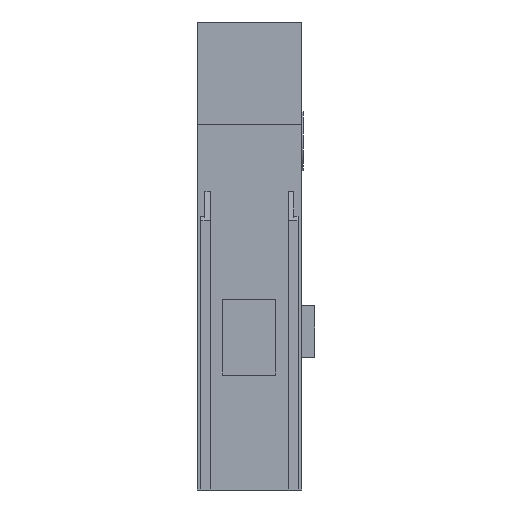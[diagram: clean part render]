
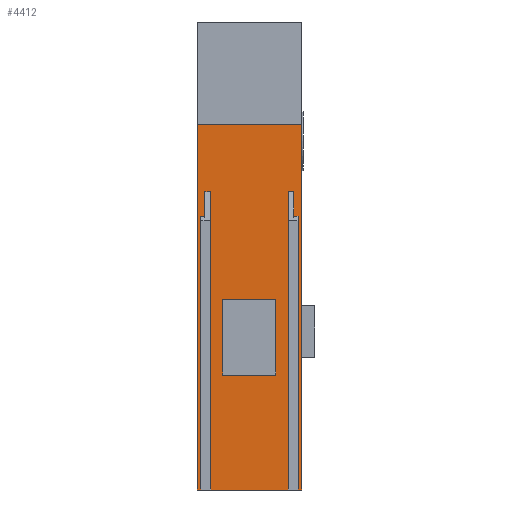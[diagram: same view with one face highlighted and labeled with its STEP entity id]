
A CAD part, front view. The second image highlights one B-rep face of the part: STEP entity #4412.
In plain terms, the highlighted planar face has unit normal (0, -1, 0).
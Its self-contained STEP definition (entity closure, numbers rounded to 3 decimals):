
#13 = VERTEX_POINT ( 'NONE', #3187 ) ;
#29 = LINE ( 'NONE', #4592, #1572 ) ;
#69 = VERTEX_POINT ( 'NONE', #3172 ) ;
#74 = CARTESIAN_POINT ( 'NONE',  ( -5.3, -32.65, 25.9 ) ) ;
#128 = CARTESIAN_POINT ( 'NONE',  ( -6.95, -32.65, 0. ) ) ;
#231 = VECTOR ( 'NONE', #3770, 1000. ) ;
#313 = VECTOR ( 'NONE', #4604, 1000. ) ;
#341 = VERTEX_POINT ( 'NONE', #74 ) ;
#349 = CARTESIAN_POINT ( 'NONE',  ( 5.4, -32.65, 0. ) ) ;
#364 = CARTESIAN_POINT ( 'NONE',  ( -5.3, -32.65, 15.6 ) ) ;
#375 = ORIENTED_EDGE ( 'NONE', *, *, #4260, .F. ) ;
#399 = DIRECTION ( 'NONE',  ( 0., 0., 1. ) ) ;
#401 = AXIS2_PLACEMENT_3D ( 'NONE', #3604, #1016, #3184 ) ;
#414 = CARTESIAN_POINT ( 'NONE',  ( -6.95, -32.65, 0. ) ) ;
#415 = DIRECTION ( 'NONE',  ( 0., 0., -1. ) ) ;
#439 = LINE ( 'NONE', #1866, #3805 ) ;
#464 = EDGE_CURVE ( 'NONE', #5383, #5363, #1769, .T. ) ;
#536 = VECTOR ( 'NONE', #2100, 1000. ) ;
#552 = LINE ( 'NONE', #1994, #2825 ) ;
#629 = EDGE_CURVE ( 'NONE', #754, #5015, #29, .T. ) ;
#644 = CARTESIAN_POINT ( 'NONE',  ( 5.4, -32.65, 49.6 ) ) ;
#664 = EDGE_CURVE ( 'NONE', #2599, #2492, #5036, .T. ) ;
#683 = PLANE ( 'NONE',  #401 ) ;
#698 = LINE ( 'NONE', #4092, #3402 ) ;
#754 = VERTEX_POINT ( 'NONE', #3648 ) ;
#819 = ORIENTED_EDGE ( 'NONE', *, *, #3344, .T. ) ;
#834 = DIRECTION ( 'NONE',  ( 0., 0., -1. ) ) ;
#890 = ORIENTED_EDGE ( 'NONE', *, *, #4572, .T. ) ;
#995 = EDGE_CURVE ( 'NONE', #5363, #1970, #698, .T. ) ;
#1016 = DIRECTION ( 'NONE',  ( 0., -1., 0. ) ) ;
#1109 = CARTESIAN_POINT ( 'NONE',  ( 3.55, -32.65, 40.5 ) ) ;
#1118 = VECTOR ( 'NONE', #1747, 1000. ) ;
#1244 = ORIENTED_EDGE ( 'NONE', *, *, #4905, .T. ) ;
#1260 = ORIENTED_EDGE ( 'NONE', *, *, #1920, .F. ) ;
#1553 = DIRECTION ( 'NONE',  ( 1., 0., 0. ) ) ;
#1572 = VECTOR ( 'NONE', #834, 1000. ) ;
#1628 = ORIENTED_EDGE ( 'NONE', *, *, #3366, .F. ) ;
#1693 = CARTESIAN_POINT ( 'NONE',  ( -7.75, -32.65, 0. ) ) ;
#1723 = LINE ( 'NONE', #4550, #4648 ) ;
#1747 = DIRECTION ( 'NONE',  ( 1., 0., 0. ) ) ;
#1764 = ORIENTED_EDGE ( 'NONE', *, *, #464, .T. ) ;
#1769 = LINE ( 'NONE', #2843, #4050 ) ;
#1820 = VECTOR ( 'NONE', #4513, 1000. ) ;
#1866 = CARTESIAN_POINT ( 'NONE',  ( -8.8, -32.65, 0. ) ) ;
#1920 = EDGE_CURVE ( 'NONE', #2904, #2945, #2679, .T. ) ;
#1970 = VERTEX_POINT ( 'NONE', #364 ) ;
#1992 = EDGE_CURVE ( 'NONE', #13, #2095, #2622, .T. ) ;
#1994 = CARTESIAN_POINT ( 'NONE',  ( -8.8, -32.65, 40.5 ) ) ;
#2019 = ORIENTED_EDGE ( 'NONE', *, *, #664, .T. ) ;
#2025 = CARTESIAN_POINT ( 'NONE',  ( -5.3, -32.65, 15.6 ) ) ;
#2088 = CARTESIAN_POINT ( 'NONE',  ( 3.55, -32.65, 0. ) ) ;
#2095 = VERTEX_POINT ( 'NONE', #2555 ) ;
#2100 = DIRECTION ( 'NONE',  ( 1., 0., 0. ) ) ;
#2248 = CARTESIAN_POINT ( 'NONE',  ( -8.8, -32.65, 49.6 ) ) ;
#2491 = EDGE_LOOP ( 'NONE', ( #3021, #1764, #3125, #5140 ) ) ;
#2492 = VERTEX_POINT ( 'NONE', #1109 ) ;
#2555 = CARTESIAN_POINT ( 'NONE',  ( -6.95, -32.65, 40.5 ) ) ;
#2575 = FACE_OUTER_BOUND ( 'NONE', #5431, .T. ) ;
#2599 = VERTEX_POINT ( 'NONE', #3631 ) ;
#2615 = ORIENTED_EDGE ( 'NONE', *, *, #4069, .T. ) ;
#2622 = LINE ( 'NONE', #414, #231 ) ;
#2624 = EDGE_CURVE ( 'NONE', #1970, #341, #4224, .T. ) ;
#2679 = LINE ( 'NONE', #4890, #1820 ) ;
#2825 = VECTOR ( 'NONE', #1553, 1000. ) ;
#2837 = VERTEX_POINT ( 'NONE', #5466 ) ;
#2843 = CARTESIAN_POINT ( 'NONE',  ( 1.9, -32.65, 25.9 ) ) ;
#2851 = EDGE_CURVE ( 'NONE', #341, #5383, #4736, .T. ) ;
#2857 = DIRECTION ( 'NONE',  ( 0., 0., -1. ) ) ;
#2904 = VERTEX_POINT ( 'NONE', #4212 ) ;
#2945 = VERTEX_POINT ( 'NONE', #3821 ) ;
#2954 = VECTOR ( 'NONE', #3512, 1000. ) ;
#3010 = ORIENTED_EDGE ( 'NONE', *, *, #5458, .T. ) ;
#3021 = ORIENTED_EDGE ( 'NONE', *, *, #2851, .T. ) ;
#3028 = LINE ( 'NONE', #4204, #3300 ) ;
#3083 = FACE_BOUND ( 'NONE', #2491, .T. ) ;
#3125 = ORIENTED_EDGE ( 'NONE', *, *, #995, .T. ) ;
#3172 = CARTESIAN_POINT ( 'NONE',  ( -7.75, -32.65, 40.5 ) ) ;
#3184 = DIRECTION ( 'NONE',  ( 0., 0., -1. ) ) ;
#3187 = CARTESIAN_POINT ( 'NONE',  ( -6.95, -32.65, 0. ) ) ;
#3262 = DIRECTION ( 'NONE',  ( -1., 0., 0. ) ) ;
#3300 = VECTOR ( 'NONE', #415, 1000. ) ;
#3344 = EDGE_CURVE ( 'NONE', #2492, #2945, #1723, .T. ) ;
#3356 = LINE ( 'NONE', #349, #1118 ) ;
#3366 = EDGE_CURVE ( 'NONE', #4967, #2837, #3028, .T. ) ;
#3402 = VECTOR ( 'NONE', #3262, 1000. ) ;
#3414 = VECTOR ( 'NONE', #4744, 1000. ) ;
#3512 = DIRECTION ( 'NONE',  ( 1., 0., 0. ) ) ;
#3569 = CARTESIAN_POINT ( 'NONE',  ( -7.75, -32.65, 0. ) ) ;
#3604 = CARTESIAN_POINT ( 'NONE',  ( -8.8, -32.65, 40.5 ) ) ;
#3631 = CARTESIAN_POINT ( 'NONE',  ( 3.55, -32.65, 0. ) ) ;
#3643 = DIRECTION ( 'NONE',  ( 0., 0., 1. ) ) ;
#3648 = CARTESIAN_POINT ( 'NONE',  ( -8.8, -32.65, 49.6 ) ) ;
#3727 = ORIENTED_EDGE ( 'NONE', *, *, #629, .T. ) ;
#3766 = CARTESIAN_POINT ( 'NONE',  ( -5.3, -32.65, 25.9 ) ) ;
#3770 = DIRECTION ( 'NONE',  ( 0., 0., 1. ) ) ;
#3805 = VECTOR ( 'NONE', #4784, 1000. ) ;
#3810 = VERTEX_POINT ( 'NONE', #3569 ) ;
#3821 = CARTESIAN_POINT ( 'NONE',  ( 4.35, -32.65, 40.5 ) ) ;
#3868 = LINE ( 'NONE', #128, #2954 ) ;
#3915 = ORIENTED_EDGE ( 'NONE', *, *, #1992, .F. ) ;
#3927 = LINE ( 'NONE', #1693, #313 ) ;
#3987 = CARTESIAN_POINT ( 'NONE',  ( 1.9, -32.65, 15.6 ) ) ;
#4015 = CARTESIAN_POINT ( 'NONE',  ( -8.8, -32.65, 0. ) ) ;
#4050 = VECTOR ( 'NONE', #2857, 1000. ) ;
#4069 = EDGE_CURVE ( 'NONE', #2904, #2837, #3356, .T. ) ;
#4090 = CARTESIAN_POINT ( 'NONE',  ( 1.9, -32.65, 25.9 ) ) ;
#4092 = CARTESIAN_POINT ( 'NONE',  ( 1.9, -32.65, 15.6 ) ) ;
#4204 = CARTESIAN_POINT ( 'NONE',  ( 5.4, -32.65, 40.5 ) ) ;
#4212 = CARTESIAN_POINT ( 'NONE',  ( 4.35, -32.65, 0. ) ) ;
#4224 = LINE ( 'NONE', #2025, #4422 ) ;
#4260 = EDGE_CURVE ( 'NONE', #754, #4967, #4765, .T. ) ;
#4350 = EDGE_CURVE ( 'NONE', #5015, #3810, #439, .T. ) ;
#4412 = ADVANCED_FACE ( 'NONE', ( #2575, #3083 ), #683, .T. ) ;
#4422 = VECTOR ( 'NONE', #3643, 1000. ) ;
#4513 = DIRECTION ( 'NONE',  ( 0., 0., 1. ) ) ;
#4550 = CARTESIAN_POINT ( 'NONE',  ( -8.8, -32.65, 40.5 ) ) ;
#4572 = EDGE_CURVE ( 'NONE', #3810, #69, #3927, .T. ) ;
#4592 = CARTESIAN_POINT ( 'NONE',  ( -8.8, -32.65, 40.5 ) ) ;
#4604 = DIRECTION ( 'NONE',  ( 0., 0., 1. ) ) ;
#4613 = DIRECTION ( 'NONE',  ( 1., 0., 0. ) ) ;
#4648 = VECTOR ( 'NONE', #4613, 1000. ) ;
#4736 = LINE ( 'NONE', #3766, #536 ) ;
#4744 = DIRECTION ( 'NONE',  ( 1., 0., 0. ) ) ;
#4765 = LINE ( 'NONE', #2248, #3414 ) ;
#4784 = DIRECTION ( 'NONE',  ( 1., 0., 0. ) ) ;
#4890 = CARTESIAN_POINT ( 'NONE',  ( 4.35, -32.65, 0. ) ) ;
#4905 = EDGE_CURVE ( 'NONE', #13, #2599, #3868, .T. ) ;
#4967 = VERTEX_POINT ( 'NONE', #644 ) ;
#5015 = VERTEX_POINT ( 'NONE', #4015 ) ;
#5036 = LINE ( 'NONE', #2088, #5439 ) ;
#5047 = ORIENTED_EDGE ( 'NONE', *, *, #4350, .T. ) ;
#5140 = ORIENTED_EDGE ( 'NONE', *, *, #2624, .T. ) ;
#5363 = VERTEX_POINT ( 'NONE', #3987 ) ;
#5383 = VERTEX_POINT ( 'NONE', #4090 ) ;
#5431 = EDGE_LOOP ( 'NONE', ( #3727, #5047, #890, #3010, #3915, #1244, #2019, #819, #1260, #2615, #1628, #375 ) ) ;
#5439 = VECTOR ( 'NONE', #399, 1000. ) ;
#5458 = EDGE_CURVE ( 'NONE', #69, #2095, #552, .T. ) ;
#5466 = CARTESIAN_POINT ( 'NONE',  ( 5.4, -32.65, 0. ) ) ;
